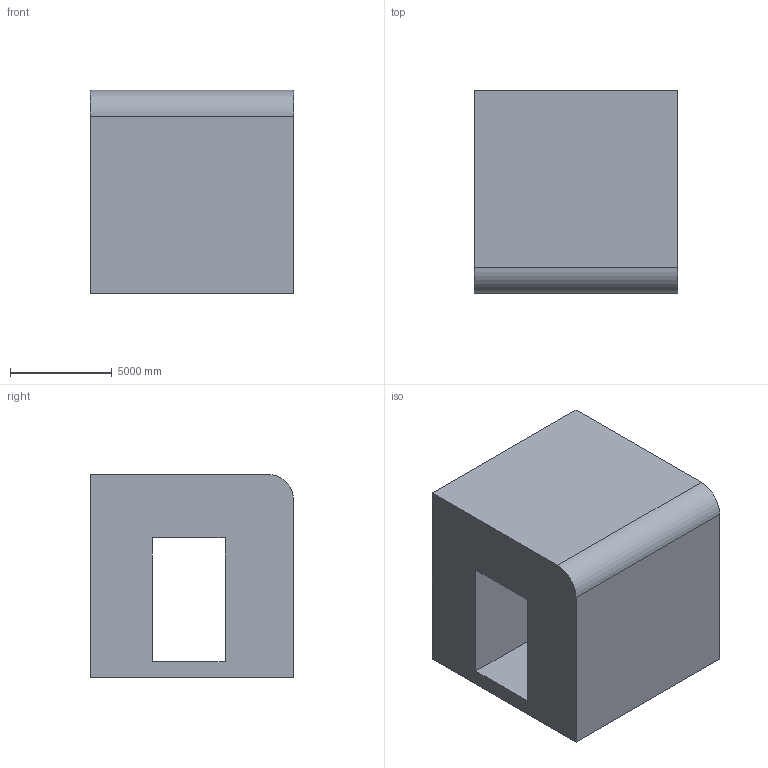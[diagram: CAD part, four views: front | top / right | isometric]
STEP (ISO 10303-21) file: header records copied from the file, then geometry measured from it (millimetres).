
FILE_DESCRIPTION (( 'STEP AP203' ), '1' );
FILE_NAME ('1008.STEP', '2022-08-18T12:24:11', ( 'user' ), ( '' ), 'SwSTEP 2.0', 'SolidWorks 2021', '' );
FILE_SCHEMA (( 'CONFIG_CONTROL_DESIGN' ));
Length unit declared in the file: centimetre
Products named in the file (1): 1008
Bounding box: 10000 x 10000 x 10000 mm (x, y, z)
Volume: 777864805665.4 mm3; surface area: 743604550.1 mm2
Topology: 1 solids, 1 shells, 11 faces, 27 edges, 18 vertices
Faces by surface type: plane 10, cylinder 1
Entity records: 404 total; most frequent: CARTESIAN_POINT 57, ORIENTED_EDGE 54, DIRECTION 53, EDGE_CURVE 27, LINE 25, VECTOR 25, VERTEX_POINT 18, AXIS2_PLACEMENT_3D 14
